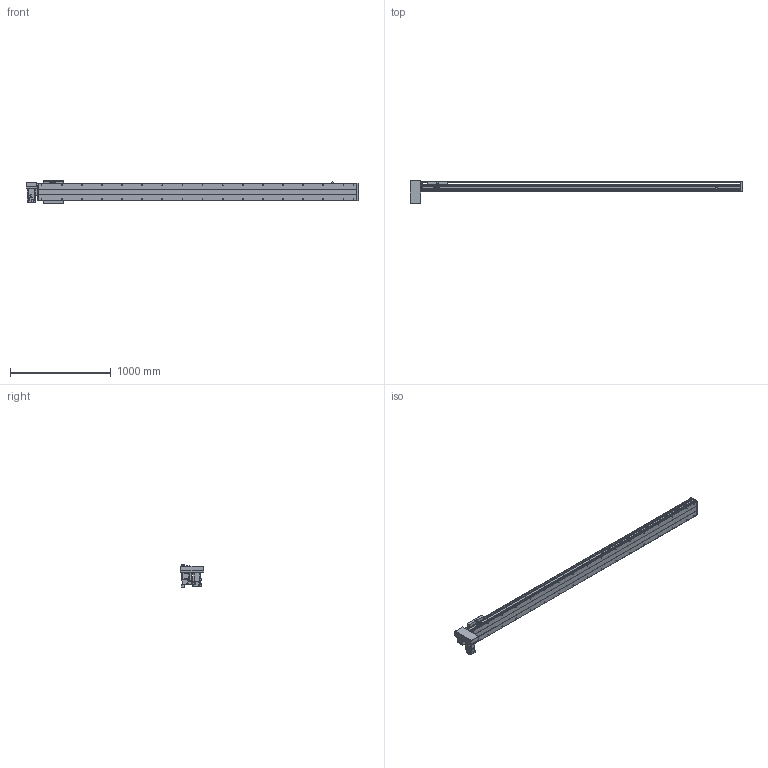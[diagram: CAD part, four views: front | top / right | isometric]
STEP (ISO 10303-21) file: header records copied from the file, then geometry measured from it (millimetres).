
FILE_DESCRIPTION(/* description */ ('STEP AP214'),/* implementation_level */ '2;1');
FILE_NAME(/* name */ 'PBS200-P40-S2800-RD-T75-C1-N(0)',/* time_stamp */ '2022-06-11T09:32:18+02:00',/* author */ ('License CC BY-ND 4.0'),/* organization */ ('CADENAS'),/* preprocessor_version */ 'ST-DEVELOPER v18.102',/* originating_system */ 'PARTsolutions',/* authorisation */ ' ');
FILE_SCHEMA (('AUTOMOTIVE_DESIGN {1 0 10303 214 3 1 1}'));
Length unit declared in the file: millimetre
Products named in the file (7): PBS200-P40-S2800-RD-T75-C1-N(0); PBS200_sensor; PBS200_plant; PBS200_sliser; T75-p1; PBS200T-RD_motors; PBS200-S2800()_body
Assembly tree (8 placements, depth 2):
  PBS200-P40-S2800-RD-T75-C1-N(0)
    PBS200_sensor  x3
    PBS200_plant
    PBS200_sliser
    T75-p1
    PBS200T-RD_motors
    PBS200-S2800()_body
Bounding box: 3300 x 230 x 221 mm (x, y, z)
Volume: 22477115.3 mm3; surface area: 3591786.5 mm2
Topology: 8 solids, 8 shells, 974 faces, 2464 edges, 1602 vertices
Faces by surface type: plane 592, cylinder 316, cone 66
Full cylindrical faces by diameter (mm): 2.459 x6, 3.242 x4, 4.5 x6, 4.917 x4, 5 x6, 6 x7, 6.6 x8, 6.647 x38, 8 x6, 10 x4, 12 x8, 38 x2, 40 x1, 70 x1
Entity records: 25661 total; most frequent: DIRECTION 4543, CARTESIAN_POINT 4354, ORIENTED_EDGE 4090, EDGE_CURVE 2045, AXIS2_PLACEMENT_3D 1615, VERTEX_POINT 1426, LINE 1313, VECTOR 1313
